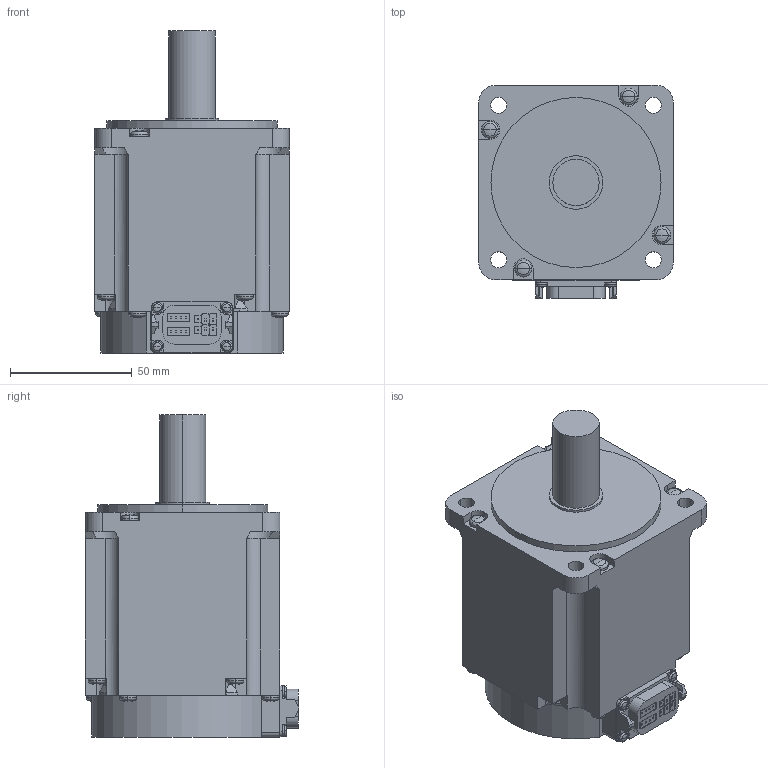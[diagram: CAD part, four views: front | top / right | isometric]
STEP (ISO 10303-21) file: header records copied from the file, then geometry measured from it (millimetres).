
FILE_DESCRIPTION((''),'2;1');
FILE_NAME('HK-KT7M3W_-_ASM','2019-01-15T',('XE90682'),(''),'CREO PARAMETRIC BY PTC INC, 2016380','CREO PARAMETRIC BY PTC INC, 2016380','');
FILE_SCHEMA(('CONFIG_CONTROL_DESIGN'));
Length unit declared in the file: millimetre
Products named in the file (1): HK-KT7M3W_-_ASM
Bounding box: 80 x 87.65 x 132.5 mm (x, y, z)
Volume: 533517.2 mm3; surface area: 45218.6 mm2
Topology: 1 solids, 1 shells, 401 faces, 1043 edges, 655 vertices
Faces by surface type: plane 220, cylinder 113, torus 32, sphere 32, cone 4
Entity records: 12241 total; most frequent: CARTESIAN_POINT 2270, DIRECTION 2124, ORIENTED_EDGE 2022, EDGE_CURVE 1011, AXIS2_PLACEMENT_3D 728, VECTOR 668, LINE 668, VERTEX_POINT 655
